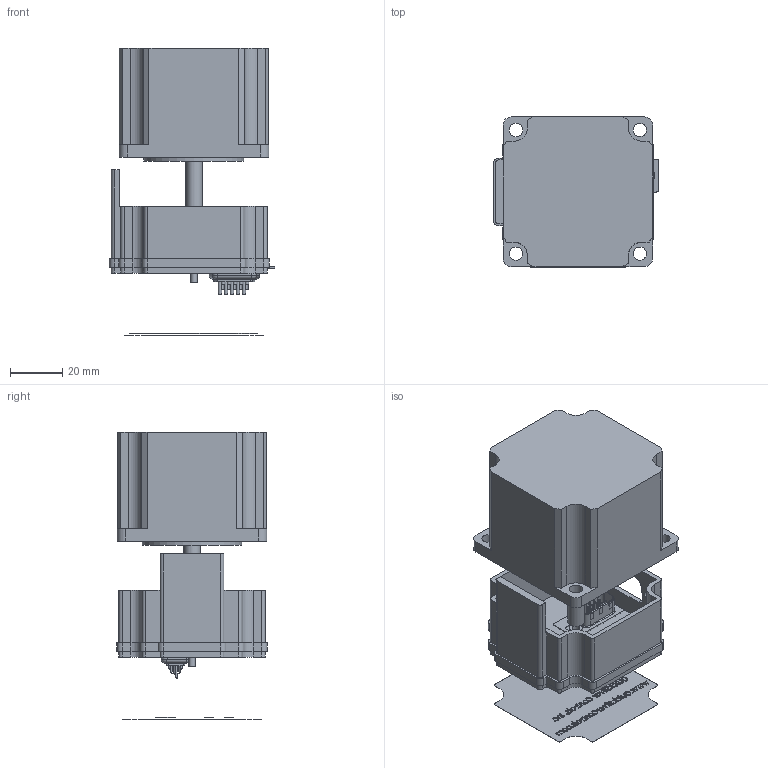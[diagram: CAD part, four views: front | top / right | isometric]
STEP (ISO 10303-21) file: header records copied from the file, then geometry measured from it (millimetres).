
FILE_DESCRIPTION(/* description */ ('Alibre Inc.'),/* implementation_level */ '2;1');
FILE_NAME(/* name */ 'export0',/* time_stamp */ '2008-02-02T08:52:05-08:00',/* author */ (''),/* organization */ (''),/* preprocessor_version */ 'ST-DEVELOPER v10',/* originating_system */ 'Alibre',/* authorisation */ '');
FILE_SCHEMA (('ALIBRE_SCHEMA','CONFIG_CONTROL_DESIGN'));
Length unit declared in the file: inch
Products named in the file (9): ID_1
Bounding box: 63.07 x 57.4 x 109.88 mm (x, y, z)
Volume: 143750.1 mm3; surface area: 42021.8 mm2
Topology: 63 solids, 63 shells, 1779 faces, 4603 edges, 3018 vertices
Faces by surface type: plane 798, bspline 641, cylinder 289, torus 50, cone 1
Full cylindrical faces by diameter (mm): 2.489 x1, 2.87 x1, 3.175 x2, 5.08 x4, 6.35 x2, 8.89 x1, 38.1 x1
Entity records: 111424 total; most frequent: CARTESIAN_POINT 33950, ORIENTED_EDGE 12004, DIRECTION 8300, EDGE_CURVE 5972, CONSTRAINTPAIRUV 4720, VECTOR 4349, LINE 4037, VERTEX_POINT 3897
